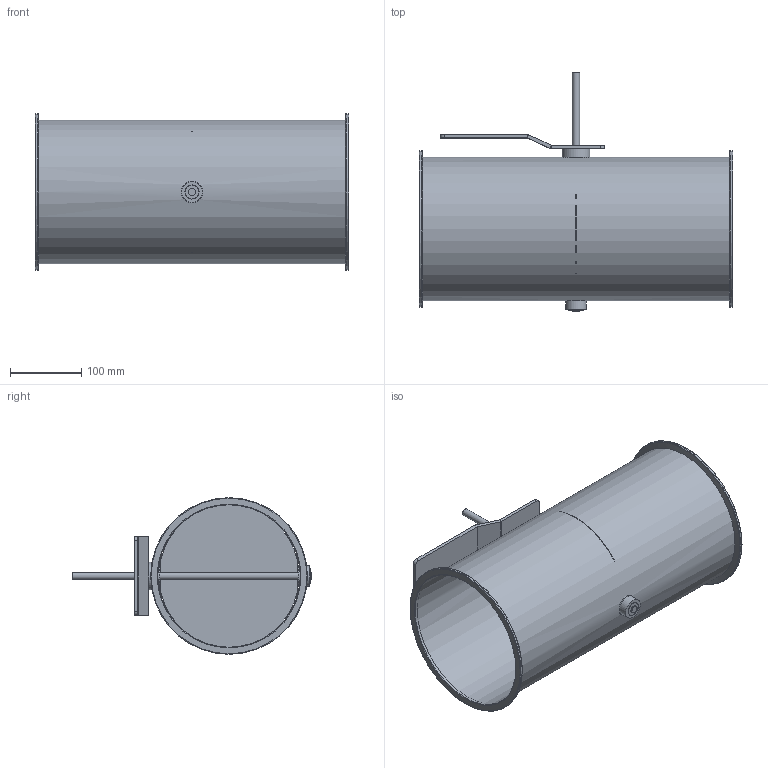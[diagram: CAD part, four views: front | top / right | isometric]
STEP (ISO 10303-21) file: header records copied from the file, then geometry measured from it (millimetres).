
FILE_DESCRIPTION(/* description */ (''),/* implementation_level */ '2;1');
FILE_NAME(/* name */ 'EA101-80B__200_L440_Belimo_Typen_NF_SF.stp',/* time_stamp */ '2017-12-06T14:17:04+01:00',/* author */ (''),/* organization */ (''),/* preprocessor_version */ 'ST-DEVELOPER v11',/* originating_system */ 'SIEMENS UGS NX 6.0',/* authorisation */ '');
FILE_SCHEMA (('CONFIG_CONTROL_DESIGN'));
Length unit declared in the file: millimetre
Products named in the file (1): gars18E2j26b
Bounding box: 440 x 336 x 220 mm (x, y, z)
Volume: 487393.7 mm3; surface area: 717292.3 mm2
Topology: 8 solids, 8 shells, 75 faces, 155 edges, 98 vertices
Faces by surface type: plane 36, cylinder 31, torus 6, cone 2
Full cylindrical faces by diameter (mm): 4.1 x3, 10 x3, 19 x3, 19.85 x2, 20 x2, 29 x1, 30 x2, 39 x1, 200 x1, 201.6 x1, 220 x2
Entity records: 1926 total; most frequent: CARTESIAN_POINT 348, DIRECTION 328, ORIENTED_EDGE 232, AXIS2_PLACEMENT_3D 140, EDGE_LOOP 128, EDGE_CURVE 116, FACE_BOUND 98, VERTEX_POINT 88
